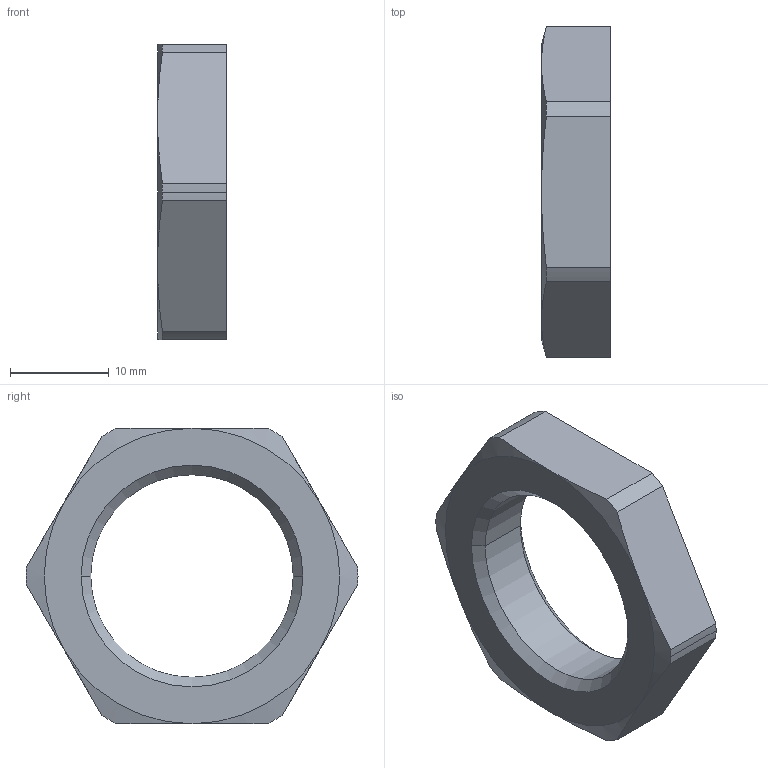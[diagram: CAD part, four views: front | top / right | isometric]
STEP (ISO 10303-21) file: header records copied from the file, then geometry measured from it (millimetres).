
FILE_DESCRIPTION((''),'2;1');
FILE_NAME('108709.0.stp','2007-11-06T08:52:50',(''),(''),'AutoCAD STEP 2000i','AutoCAD 2000i',', , ');
FILE_SCHEMA(('CONFIG_CONTROL_DESIGN'));
Length unit declared in the file: millimetre
Products named in the file (2): 108709.0; CHIAVE SMUSSX1036#0
Assembly tree (1 placements, depth 2):
  108709.0
    CHIAVE SMUSSX1036#0
Bounding box: 7 x 33.7 x 30 mm (x, y, z)
Volume: 3042 mm3; surface area: 1969.6 mm2
Topology: 1 solids, 1 shells, 28 faces, 68 edges, 42 vertices
Faces by surface type: cylinder 10, cone 10, plane 8
Entity records: 923 total; most frequent: CARTESIAN_POINT 164, DIRECTION 146, ORIENTED_EDGE 136, EDGE_CURVE 68, AXIS2_PLACEMENT_3D 60, VERTEX_POINT 42, CIRCLE 30, EDGE_LOOP 30
